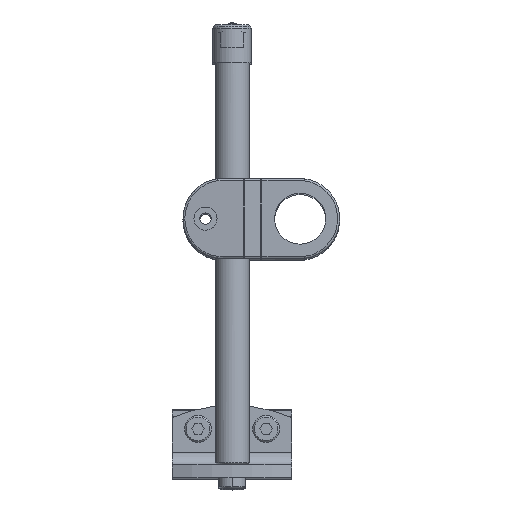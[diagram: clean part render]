
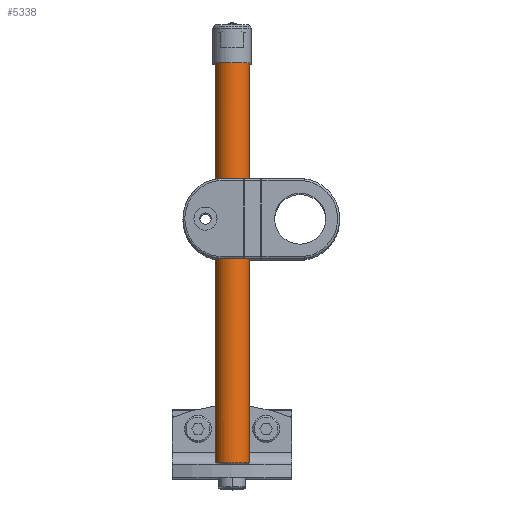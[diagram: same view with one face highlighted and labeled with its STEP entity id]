
A CAD part, top view. The second image highlights one B-rep face of the part: STEP entity #5338.
In plain terms, the highlighted cylindrical face has radius 6.35 mm (diameter 12.7 mm), a partial arc.
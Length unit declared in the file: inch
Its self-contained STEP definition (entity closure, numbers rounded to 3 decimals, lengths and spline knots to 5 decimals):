
#4971=CARTESIAN_POINT('',(0.03125,0.,0.));
#4972=DIRECTION('',(1.,0.,0.));
#4973=DIRECTION('',(0.,0.,1.));
#4974=AXIS2_PLACEMENT_3D('',#4971,#4972,#4973);
#4993=DIRECTION('',(-1.,0.,0.));
#4994=VECTOR('',#4993,6.3175);
#4995=CARTESIAN_POINT('',(6.34875,0.,0.25));
#4996=LINE('',#4995,#4994);
#5009=CARTESIAN_POINT('',(6.34875,0.,0.));
#5010=DIRECTION('',(-1.,0.,0.));
#5011=DIRECTION('',(0.,0.,-1.));
#5012=AXIS2_PLACEMENT_3D('',#5009,#5010,#5011);
#5053=DIRECTION('',(-1.,0.,0.));
#5054=VECTOR('',#5053,6.3175);
#5055=CARTESIAN_POINT('',(6.34875,0.,-0.25));
#5056=LINE('',#5055,#5054);
#5057=DIRECTION('',(-1.,0.,0.));
#5058=VECTOR('',#5057,0.21875);
#5059=CARTESIAN_POINT('',(6.34875,-0.19,0.16248));
#5060=LINE('',#5059,#5058);
#5061=DIRECTION('',(1.,0.,0.));
#5062=VECTOR('',#5061,0.21875);
#5063=CARTESIAN_POINT('',(6.13,-0.19,-0.16248));
#5064=LINE('',#5063,#5062);
#5072=CARTESIAN_POINT('',(6.34875,0.,0.));
#5073=DIRECTION('',(-1.,0.,0.));
#5074=DIRECTION('',(0.,-0.76,0.65));
#5075=AXIS2_PLACEMENT_3D('',#5072,#5073,#5074);
#5093=CARTESIAN_POINT('',(6.13,0.,0.));
#5094=DIRECTION('',(-1.,0.,0.));
#5095=DIRECTION('',(0.,-0.76,-0.65));
#5096=AXIS2_PLACEMENT_3D('',#5093,#5094,#5095);
#5141=CARTESIAN_POINT('',(0.03125,0.,0.25));
#5142=VERTEX_POINT('',#5141);
#5143=CARTESIAN_POINT('',(0.03125,0.,-0.25));
#5144=VERTEX_POINT('',#5143);
#5146=CARTESIAN_POINT('',(6.34875,0.,-0.25));
#5148=VERTEX_POINT('',#5146);
#5155=CARTESIAN_POINT('',(6.34875,0.,0.25));
#5156=VERTEX_POINT('',#5155);
#5158=CARTESIAN_POINT('',(6.34875,-0.19,-0.16248));
#5159=VERTEX_POINT('',#5158);
#5169=CARTESIAN_POINT('',(6.13,-0.19,-0.16248));
#5170=VERTEX_POINT('',#5169);
#5171=CARTESIAN_POINT('',(6.13,-0.19,0.16248));
#5172=VERTEX_POINT('',#5171);
#5173=CARTESIAN_POINT('',(6.34875,-0.19,0.16248));
#5174=VERTEX_POINT('',#5173);
#5321=CARTESIAN_POINT('',(-4.11038,0.,0.));
#5322=DIRECTION('',(-1.,0.,0.));
#5323=DIRECTION('',(0.,0.,1.));
#5324=AXIS2_PLACEMENT_3D('',#5321,#5322,#5323);
#5325=CYLINDRICAL_SURFACE('',#5324,0.25);
#5326=ORIENTED_EDGE('',*,*,#5245,.T.);
#5327=ORIENTED_EDGE('',*,*,#5206,.F.);
#5328=ORIENTED_EDGE('',*,*,#5242,.F.);
#5330=ORIENTED_EDGE('',*,*,#5329,.F.);
#5331=ORIENTED_EDGE('',*,*,#5312,.T.);
#5333=ORIENTED_EDGE('',*,*,#5332,.F.);
#5334=ORIENTED_EDGE('',*,*,#5308,.T.);
#5335=ORIENTED_EDGE('',*,*,#5258,.F.);
#5336=EDGE_LOOP('',(#5326,#5327,#5328,#5330,#5331,#5333,#5334,#5335));
#5337=FACE_OUTER_BOUND('',#5336,.F.);
#4975=CIRCLE('',#4974,0.25);
#5013=CIRCLE('',#5012,0.25);
#5076=CIRCLE('',#5075,0.25);
#5097=CIRCLE('',#5096,0.25);
#5206=EDGE_CURVE('',#5142,#5144,#4975,.T.);
#5242=EDGE_CURVE('',#5156,#5142,#4996,.T.);
#5245=EDGE_CURVE('',#5148,#5144,#5056,.T.);
#5258=EDGE_CURVE('',#5148,#5159,#5013,.T.);
#5308=EDGE_CURVE('',#5170,#5159,#5064,.T.);
#5312=EDGE_CURVE('',#5174,#5172,#5060,.T.);
#5329=EDGE_CURVE('',#5174,#5156,#5076,.T.);
#5332=EDGE_CURVE('',#5170,#5172,#5097,.T.);
#5338=ADVANCED_FACE('',(#5337),#5325,.T.);
